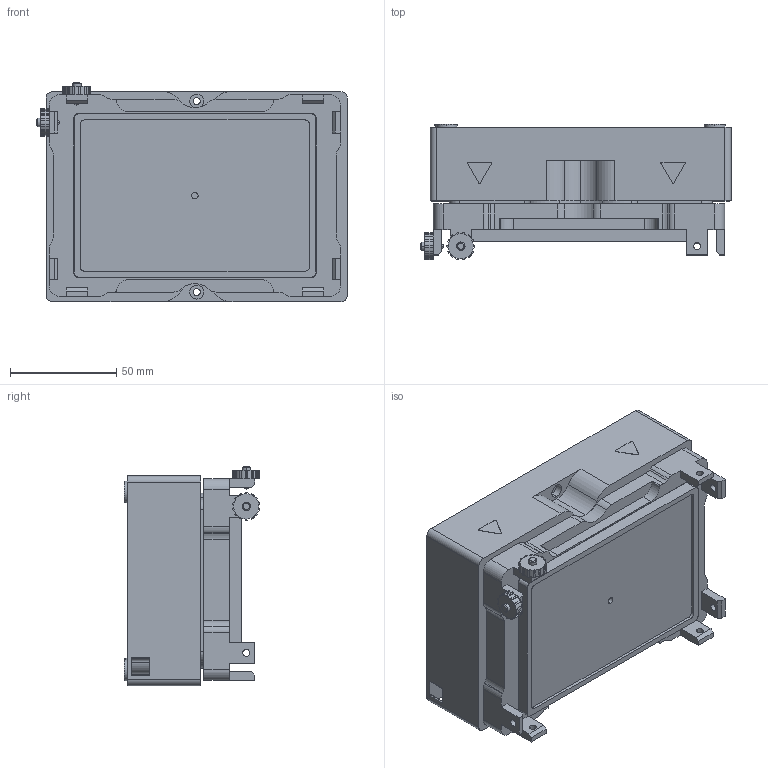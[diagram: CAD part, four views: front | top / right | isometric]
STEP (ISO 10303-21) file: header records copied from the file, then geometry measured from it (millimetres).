
FILE_DESCRIPTION (( 'STEP AP214' ), '1' );
FILE_NAME ('2016-0516-00_CAD_public.STEP', '2018-06-12T10:58:30', ( '' ), ( '' ), 'SwSTEP 2.0', 'SolidWorks 2018', '' );
FILE_SCHEMA (( 'AUTOMOTIVE_DESIGN' ));
Length unit declared in the file: millimetre
Products named in the file (1): 2016-0516-00_CAD_public
Bounding box: 146.65 x 64.02 x 103.62 mm (x, y, z)
Volume: 684451.6 mm3; surface area: 64502.3 mm2
Topology: 1 solids, 1 shells, 615 faces, 1730 edges, 1146 vertices
Faces by surface type: plane 282, cylinder 216, bspline 111, cone 6
Entity records: 26906 total; most frequent: CARTESIAN_POINT 7225, ORIENTED_EDGE 3448, DIRECTION 3002, EDGE_CURVE 1724, VERTEX_POINT 1146, LINE 1036, VECTOR 1036, AXIS2_PLACEMENT_3D 983
